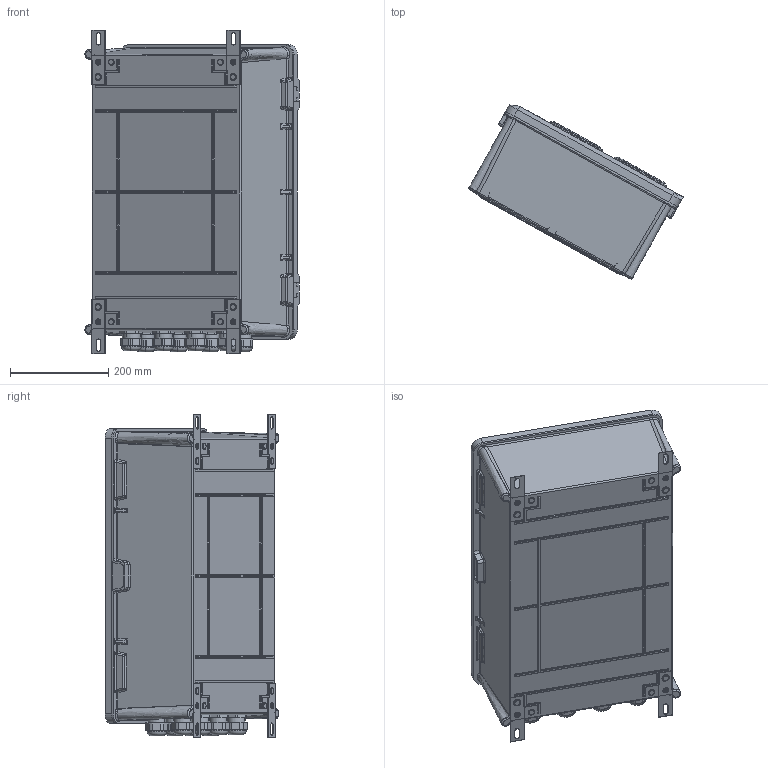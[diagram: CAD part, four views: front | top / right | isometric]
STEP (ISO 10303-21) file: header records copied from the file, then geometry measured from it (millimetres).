
FILE_DESCRIPTION(('TFLEX Exchange Step'),'2;1');
FILE_NAME('X2\0422\X0\406020Б-41.stp', '2022-11-08T11:36:56+03:00',('melekhin'),('Unknown organisation'),'TFLEX Exchange 2019.0','T-FLEX CAD','Unknown authorisation');
FILE_SCHEMA( ('AUTOMOTIVE_DESIGN { 1 0 10303 214 1 1 1 1 }') );
Length unit declared in the file: millimetre
Products named in the file (39): DIN-рейка 35x7.5; Винт самонарезающий 4,2х16 DIN 7504 M оц; Кронштейн металлический для DIN-рейки 270 (Т); Панель монтажная металлическая 40х60 (Т); Винт М 3.5x9x5; Окошко для двери круглое О-93 (И); <Корпуса (Т)>Корпуса Et:189; <Корпуса (Т)>Корпуса Et:186; <Корпуса (Т)>Корпуса Et:185; <Корпуса (Т)>Корпуса Et:184; <Корпуса (Т)>Корпуса Et:183; <Корпуса (Т)>Корпуса Et:182; <Корпуса (Т)>Корпуса Et:181; <Корпуса (Т)>Корпуса Et:180; <Корпуса (Т)>Корпуса Et:179; <Корпуса (Т)>Корпуса Et:178; <Корпуса (Т)>Корпуса Et:177; <Корпуса (Т)>Корпуса Et:176; <Корпуса (Т)>Корпуса Et:175; <Корпуса (Т)>Корпуса Et:174; <Корпуса (Т)>Корпуса Et:173; <Корпуса (Т)>Корпуса Et:172; <Корпуса (Т)>Корпуса Et:171; <Корпуса (Т)>Корпуса Et:170; <Корпуса (Т)>Корпуса Et:169; <Корпуса (Т)>Корпуса Et:110; <Корпуса (Т)>Корпуса Et:105; <Корпуса (Т)>Корпуса Et:104; <Корпуса (Т)>Корпуса Et:103; <Корпуса (Т)>Корпуса Et:102; <Корпуса (Т)>Корпуса Et:101; <Корпуса (Т)>Корпуса Et:100; <Корпуса (Т)>Корпуса Et:4; <Корпуса (Т)>Корпуса Et; BUFFER:000000EDD99FC6F0 
Assembly tree (198 placements, depth 5):
  BUFFER:000000EDD99FC6F0 
    <Корпуса (Т)>Корпуса Et
      DIN-рейка 35x7.5
        DIN-рейка 35x7.5
      Кронштейн металлический для DIN-рейки 270 (Т)  x2
        Винт самонарезающий 4,2х16 DIN 7504 M оц
      DIN-рейка 35x7.5
      Панель монтажная металлическая 40х60 (Т)
      Окошко для двери круглое О-93 (И)
        Винт М 3.5x9x5  x4
          Винт М 3.5x9x5
        Окошко для двери круглое О-93 (И)
      <Корпуса (Т)>Корпуса Et:189  x6
      DIN-рейка 35x7.5
      <Корпуса (Т)>Корпуса Et:186  x8
      <Корпуса (Т)>Корпуса Et:185  x8
      <Корпуса (Т)>Корпуса Et:184  x8
      <Корпуса (Т)>Корпуса Et:183  x8
      <Корпуса (Т)>Корпуса Et:182  x8
      <Корпуса (Т)>Корпуса Et:181  x8
      <Корпуса (Т)>Корпуса Et:180  x8
      <Корпуса (Т)>Корпуса Et:179  x8
      <Корпуса (Т)>Корпуса Et:178  x8
      <Корпуса (Т)>Корпуса Et:177  x8
      <Корпуса (Т)>Корпуса Et:176  x8
      <Корпуса (Т)>Корпуса Et:175  x8
      <Корпуса (Т)>Корпуса Et:174  x8
      <Корпуса (Т)>Корпуса Et:173  x8
      <Корпуса (Т)>Корпуса Et:172  x8
      <Корпуса (Т)>Корпуса Et:171  x8
      <Корпуса (Т)>Корпуса Et:170  x8
      <Корпуса (Т)>Корпуса Et:169  x8
      <Корпуса (Т)>Корпуса Et:110  x8
      <Корпуса (Т)>Корпуса Et:105  x2
      <Корпуса (Т)>Корпуса Et:104  x2
      <Корпуса (Т)>Корпуса Et:103  x2
      <Корпуса (Т)>Корпуса Et:102  x2
      <Корпуса (Т)>Корпуса Et:101  x2
      <Корпуса (Т)>Корпуса Et:100  x2
      Окошко для двери круглое О-93 (И)
      Винт М 3.5x9x5  x4
      <Корпуса (Т)>Корпуса Et:4  x4
Bounding box: 435.49 x 353.27 x 658 mm (x, y, z)
Volume: 4825179.8 mm3; surface area: 2477343.6 mm2
Topology: 74 solids, 210 shells, 3874 faces, 10249 edges, 6658 vertices
Faces by surface type: plane 2023, cylinder 1026, cone 346, bspline 261, torus 167, sphere 51
Full cylindrical faces by diameter (mm): 3 x4, 3.999 x1, 4 x39, 5.5 x4, 6 x4, 7 x4, 8 x8, 9.9 x2, 10 x6, 10.05 x2, 12 x8, 12.55 x2, 13 x2, 13.001 x2, 13.5 x2, 15 x4, 15.67 x2, 16 x2, 16.25 x2, 16.45 x2, 19.6 x2, 22 x2, 30 x2, 36 x8, 110 x2, 121 x2
Entity records: 115866 total; most frequent: CARTESIAN_POINT 64901, ORIENTED_EDGE 10485, DIRECTION 9927, EDGE_CURVE 5291, AXIS2_PLACEMENT_3D 3525, VERTEX_POINT 3392, VECTOR 2877, LINE 2877
